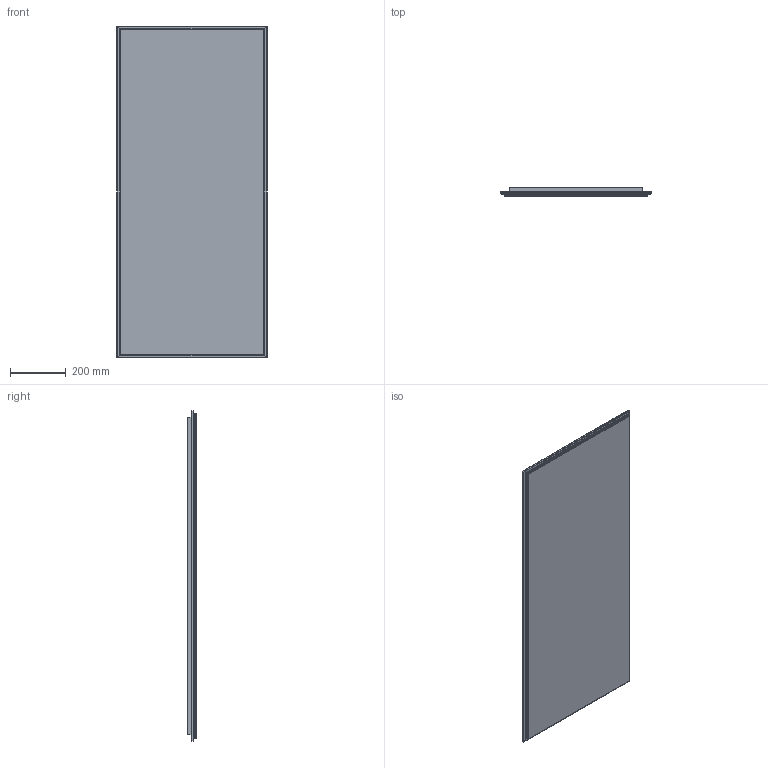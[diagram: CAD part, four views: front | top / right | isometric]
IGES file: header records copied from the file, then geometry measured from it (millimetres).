
Start section: Data from Parasolid IGES Translator 22.0.50, Copyright(c) 2006 Siemens P LM Software. All Rights Reserved.
Global section: file name: noorth-mirror-H 120 D 3,3 W 54_5233.igs; native system: By Siemens PLM Incorporated; preprocessor: XPlus GENERIC/IGES 22.0.50; author: Noname; organization: Noname; date: 20250803.160454; units: metre
Bounding box: 539.78 x 33.75 x 1186.5 mm (x, y, z)
Volume: 3422269.4 mm3; surface area: 2279566 mm2
Topology: 5 solids, 5 shells, 398 faces, 1140 edges, 752 vertices
Faces by surface type: plane 266, cylinder 62, extrusion 62, bspline 8
